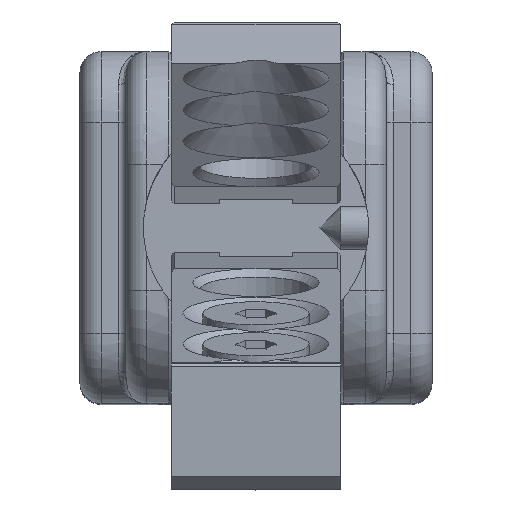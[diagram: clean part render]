
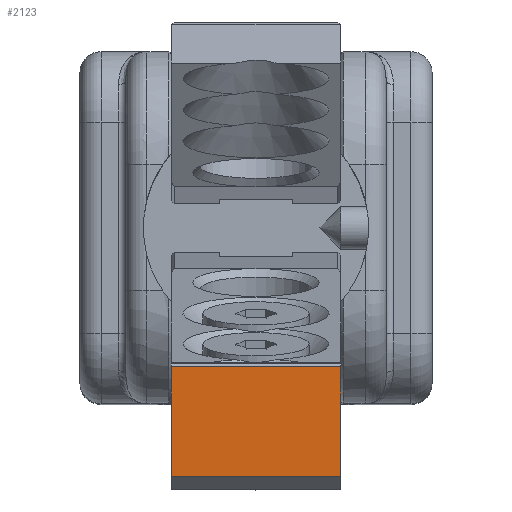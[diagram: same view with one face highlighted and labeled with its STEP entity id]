
A CAD part, top view. The second image highlights one B-rep face of the part: STEP entity #2123.
In plain terms, the highlighted planar face has unit normal (0, -0.048, 0.999).
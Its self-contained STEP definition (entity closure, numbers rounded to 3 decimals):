
#443=FACE_OUTER_BOUND('',#3024,.T.);
#691=PLANE('',#7672);
#1038=LINE('',#12039,#1538);
#1039=LINE('',#12042,#1539);
#1040=LINE('',#12044,#1540);
#1041=LINE('',#12046,#1541);
#1538=VECTOR('',#9110,1.);
#1539=VECTOR('',#9111,1.);
#1540=VECTOR('',#9112,1.);
#1541=VECTOR('',#9113,1.);
#2123=ADVANCED_FACE('',(#443),#691,.F.);
#3024=EDGE_LOOP('',(#4249,#4250,#4251,#4252));
#4249=ORIENTED_EDGE('',*,*,#6442,.F.);
#4250=ORIENTED_EDGE('',*,*,#6443,.T.);
#4251=ORIENTED_EDGE('',*,*,#6444,.T.);
#4252=ORIENTED_EDGE('',*,*,#6445,.F.);
#5610=VERTEX_POINT('',#12040);
#5611=VERTEX_POINT('',#12041);
#5612=VERTEX_POINT('',#12043);
#5613=VERTEX_POINT('',#12045);
#6442=EDGE_CURVE('',#5610,#5611,#1038,.T.);
#6443=EDGE_CURVE('',#5610,#5612,#1039,.T.);
#6444=EDGE_CURVE('',#5612,#5613,#1040,.T.);
#6445=EDGE_CURVE('',#5611,#5613,#1041,.T.);
#7672=AXIS2_PLACEMENT_3D('',#12047,#9114,#9115);
#9110=DIRECTION('',(1.,0.,0.));
#9111=DIRECTION('',(0.,-0.999,-0.048));
#9112=DIRECTION('',(1.,0.,0.));
#9113=DIRECTION('',(0.,-0.999,-0.048));
#9114=DIRECTION('',(0.,0.048,-0.999));
#9115=DIRECTION('',(0.,0.999,0.048));
#12039=CARTESIAN_POINT('',(-10.483,-6.69,166.777));
#12040=CARTESIAN_POINT('',(-10.483,-6.69,166.777));
#12041=CARTESIAN_POINT('',(1.517,-6.69,166.777));
#12042=CARTESIAN_POINT('',(-10.483,-6.49,166.787));
#12043=CARTESIAN_POINT('',(-10.483,-14.481,166.403));
#12044=CARTESIAN_POINT('',(-10.483,-14.481,166.403));
#12045=CARTESIAN_POINT('',(1.517,-14.481,166.403));
#12046=CARTESIAN_POINT('',(1.517,-6.49,166.787));
#12047=CARTESIAN_POINT('',(-10.483,-6.49,166.787));
